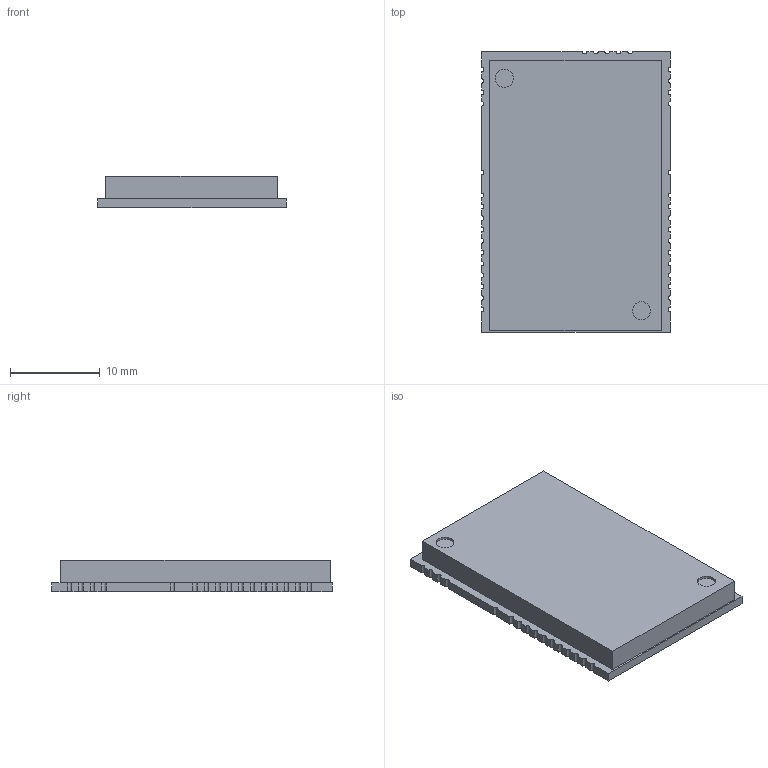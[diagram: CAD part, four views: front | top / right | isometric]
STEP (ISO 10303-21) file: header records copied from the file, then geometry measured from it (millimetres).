
FILE_DESCRIPTION(/* description */ (''),/* implementation_level */ '2;1');
FILE_NAME(/* name */ 'C:/Users/RileyStevenson/RileyS/KIM1 Module.step',/* time_stamp */ '2021-12-08T10:19:14-06:00',/* author */ (''),/* organization */ (''),/* preprocessor_version */ 'ST-DEVELOPER v18.1',/* originating_system */ 'Autodesk Translation Framework v10.10.0.1391',/* authorisation */ '');
FILE_SCHEMA (('AUTOMOTIVE_DESIGN { 1 0 10303 214 3 1 1 }'));
Length unit declared in the file: millimetre
Products named in the file (1): KIM1 Module
Bounding box: 21 x 31.2 x 3.5 mm (x, y, z)
Volume: 2082.2 mm3; surface area: 2813.4 mm2
Topology: 2 solids, 2 shells, 90 faces, 252 edges, 168 vertices
Faces by surface type: plane 51, cylinder 39
Full cylindrical faces by diameter (mm): 2 x2
Entity records: 3040 total; most frequent: DIRECTION 512, CARTESIAN_POINT 511, ORIENTED_EDGE 504, EDGE_CURVE 252, LINE 174, VECTOR 174, AXIS2_PLACEMENT_3D 169, VERTEX_POINT 168
